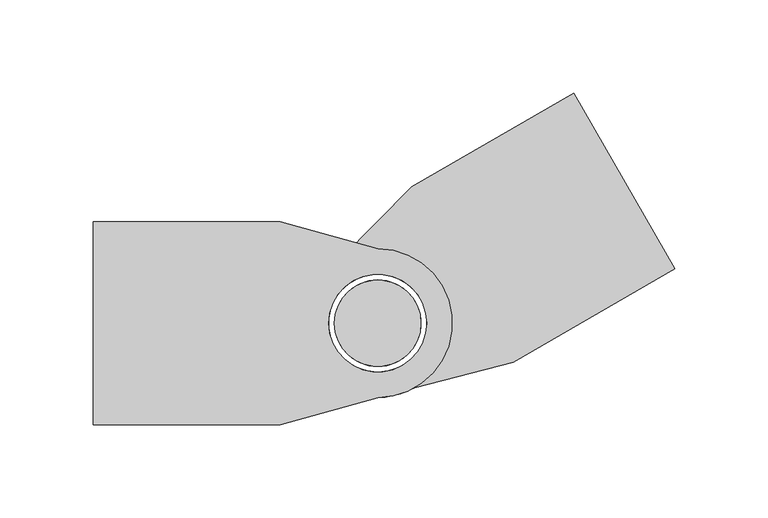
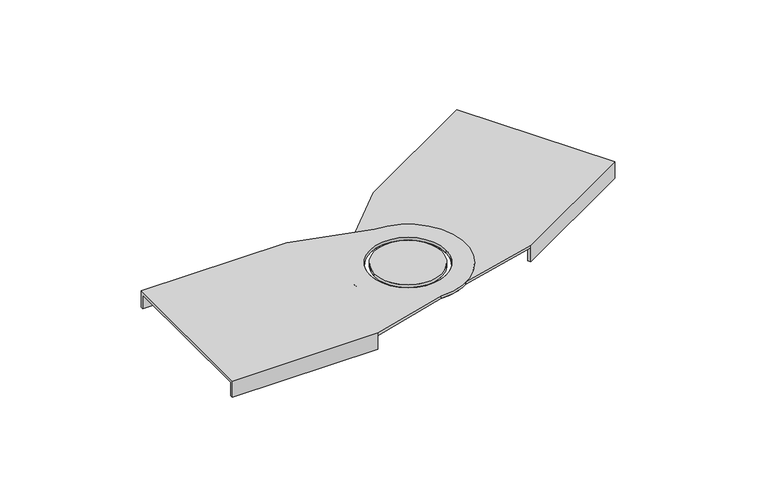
"""IFC4 building model written with IfcOpenShell, lengths in millimetres: cable carrier fitting geometry, BAKS_LD_BEND_Articulated connector_LGC : LGC_H100."""

import ifcopenshell
import ifcopenshell.guid

model = None  # the IFC model being written
_history = None  # IfcOwnerHistory: only IFC2X3 demands one
_inside = {}  # id of a spatial element -> (the spatial element, [elements in it])
_under = {}  # id of a project, library or spatial element -> (it, [spatial elements below it])
_declared = {}  # id of a project -> (the project, [libraries it declares])
_typed = {}  # id of a type object -> (the type object, [elements of that type])
_made_of = {}  # id of a material, layer set ... -> (it, [elements and type objects made of it])


def new_model(schema):
    """Start an empty IFC model of exactly this schema.

    Asked for "IFC4X3", IfcOpenShell would pick the latest addendum, in which some entities
    have other attributes; the version numbers below select the first issue.
    IFC2X3 requires an IfcOwnerHistory on every rooted entity: one is made here for all.
    """
    global model, _history
    if schema == "IFC4X3":
        model = ifcopenshell.file(schema_version=(4, 3, 0, 0))
    else:
        model = ifcopenshell.file(schema=schema)
    _inside.clear()
    _under.clear()
    _declared.clear()
    _typed.clear()
    _made_of.clear()
    _history = None
    if model.schema == "IFC2X3":
        org = make("IfcOrganization", Name="unknown")
        user = make(
            "IfcPersonAndOrganization",
            ThePerson=make("IfcPerson", FamilyName="unknown"),
            TheOrganization=org,
        )
        app = make(
            "IfcApplication",
            ApplicationDeveloper=org,
            Version="unknown",
            ApplicationFullName="unknown",
            ApplicationIdentifier="unknown",
        )
        _history = make(
            "IfcOwnerHistory",
            OwningUser=user,
            OwningApplication=app,
            ChangeAction="ADDED",
            CreationDate=0,
        )
    return model


def make(cls, **values):
    """One entity of the class cls with the attributes given. An attribute that is None is left unset."""
    return model.create_entity(
        cls, **{name: value for name, value in values.items() if value is not None}
    )


def rooted(cls, **values):
    """An entity with a GlobalId (a new one), such as an element, a storey or a relation."""
    return make(cls, GlobalId=ifcopenshell.guid.new(), OwnerHistory=_history, **values)


def si_unit(unit_type, name, prefix=None):
    """IfcSIUnit, for example si_unit("LENGTHUNIT", "METRE", prefix="MILLI")."""
    return make("IfcSIUnit", UnitType=unit_type, Prefix=prefix, Name=name)


def assignment(units):
    """IfcUnitAssignment: the units of a project."""
    return None if units is None else make("IfcUnitAssignment", Units=units)


def point(xyz):
    """IfcCartesianPoint."""
    return None if xyz is None else make("IfcCartesianPoint", Coordinates=xyz)


def direction(xyz):
    """IfcDirection."""
    return None if xyz is None else make("IfcDirection", DirectionRatios=xyz)


def frame(location, z_axis=None, x_axis=None):
    """IfcAxis2Placement3D, a coordinate frame: its origin and axes. An axis left out is left unset."""
    return make(
        "IfcAxis2Placement3D",
        Location=point(location),
        Axis=direction(z_axis),
        RefDirection=direction(x_axis),
    )


def origin():
    """The frame at (0, 0, 0) with its axes left unset."""
    return frame((0.0, 0.0, 0.0))


def place(relative_to, where):
    """IfcLocalPlacement: puts the frame where relative to a parent placement (None: the world)."""
    return make(
        "IfcLocalPlacement", PlacementRelTo=relative_to, RelativePlacement=where
    )


def context(
    kind, dimensions, precision=None, world=None, true_north=None, identifier=None
):
    """IfcGeometricRepresentationContext, for example the 3D "Model" context."""
    return make(
        "IfcGeometricRepresentationContext",
        ContextIdentifier=identifier,
        ContextType=kind,
        CoordinateSpaceDimension=dimensions,
        Precision=precision,
        WorldCoordinateSystem=world,
        TrueNorth=true_north,
    )


def project(units=None, contexts=None):
    """IfcProject with its units and contexts."""
    return rooted(
        "IfcProject",
        Name="project",
        RepresentationContexts=contexts,
        UnitsInContext=assignment(units),
    )


def spatial(cls, under=None, at=None, **own):
    """A site, building, storey or space (cls), placed at a placement, below another one or the project."""
    s = rooted(cls, ObjectPlacement=at, **own)
    if under is not None:
        _under.setdefault(under.id(), (under, []))[1].append(s)
    return s


def polyline(points):
    """IfcPolyline through the points."""
    return make("IfcPolyline", Points=[point(p) for p in points])


def circle_curve(where, radius):
    """IfcCircle in the frame where."""
    return make("IfcCircle", Position=where, Radius=radius)


def shape(context_of_items, identifier, shape_type, items):
    """IfcShapeRepresentation: the items that make up one representation, for example the "Body"."""
    return make(
        "IfcShapeRepresentation",
        ContextOfItems=context_of_items,
        RepresentationIdentifier=identifier,
        RepresentationType=shape_type,
        Items=items,
    )


def source(mapping_origin, context_of_items, identifier, shape_type, items):
    """IfcRepresentationMap: a shape defined once, which mapped items show again and again."""
    return make(
        "IfcRepresentationMap",
        MappingOrigin=mapping_origin,
        MappedRepresentation=shape(context_of_items, identifier, shape_type, items),
    )


def transform(
    local_origin,
    x_axis=None,
    y_axis=None,
    z_axis=None,
    scale=None,
    scale2=None,
    scale3=None,
    uniform=True,
):
    """IfcCartesianTransformationOperator3D, or its non-uniform kind. x_axis, y_axis, z_axis: its Axis1, 2, 3."""
    if uniform:
        return make(
            "IfcCartesianTransformationOperator3D",
            Axis1=direction(x_axis),
            Axis2=direction(y_axis),
            LocalOrigin=point(local_origin),
            Scale=scale,
            Axis3=direction(z_axis),
        )
    return make(
        "IfcCartesianTransformationOperator3DnonUniform",
        Axis1=direction(x_axis),
        Axis2=direction(y_axis),
        LocalOrigin=point(local_origin),
        Scale=scale,
        Axis3=direction(z_axis),
        Scale2=scale2,
        Scale3=scale3,
    )


def mapped(mapping_source, mapping_target):
    """IfcMappedItem: shows the shape of a source again, moved by a transform."""
    return make(
        "IfcMappedItem", MappingSource=mapping_source, MappingTarget=mapping_target
    )


def made_of(thing, what):
    """Note that an element or type object is made of a material, layer set ...; save() writes the relation."""
    if what is not None:
        _made_of.setdefault(what.id(), (what, []))[1].append(thing)
    return thing


def element(
    cls,
    number,
    at=None,
    inside=None,
    cuts=None,
    type_object=None,
    material=None,
    context=None,
    identifier="Body",
    shape_type=None,
    held_by="IfcProductDefinitionShape",
    body=None,
    shapes=None,
    **own,
):
    """One element of the class cls, such as IfcWall. Its Tag is "e" and its number.

    at: its placement. inside: the storey or other place that contains it. cuts: it is an
    opening in that element (IfcRelVoidsElement). A single representation is given by context,
    identifier, shape_type and body (its items); several are given by shapes. held_by: the class
    of the entity that holds the representations. save() writes the other relations.
    """
    e = rooted(cls, Tag="e%d" % number, ObjectPlacement=at, **own)
    if body is not None:
        shapes = [shape(context, identifier, shape_type, body)]
    if shapes is not None:
        e.Representation = make(held_by, Representations=shapes)
    if inside is not None:
        _inside.setdefault(inside.id(), (inside, []))[1].append(e)
    if cuts is not None:
        rooted(
            "IfcRelVoidsElement", RelatingBuildingElement=cuts, RelatedOpeningElement=e
        )
    if type_object is not None:
        _typed.setdefault(type_object.id(), (type_object, []))[1].append(e)
    return made_of(e, material)


def aggregate(whole, parts):
    """IfcRelAggregates: a whole, such as a stair, and the parts it consists of."""
    return rooted("IfcRelAggregates", RelatingObject=whole, RelatedObjects=parts)


def save(model, path):
    """Write the relations noted so far, then the file.

    IfcRelAggregates (storeys below a building ...), IfcRelContainedInSpatialStructure (elements
    in a storey), IfcRelDefinesByType, IfcRelAssociatesMaterial and IfcRelDeclares: one each for
    every whole, place, type object, material and project.
    """
    for whole, parts in _under.values():
        aggregate(whole, parts)
    for where, things in _inside.values():
        rooted(
            "IfcRelContainedInSpatialStructure",
            RelatedElements=things,
            RelatingStructure=where,
        )
    for kind, things in _typed.values():
        rooted("IfcRelDefinesByType", RelatedObjects=things, RelatingType=kind)
    for what, things in _made_of.values():
        rooted("IfcRelAssociatesMaterial", RelatedObjects=things, RelatingMaterial=what)
    for by, libraries in _declared.values():
        rooted("IfcRelDeclares", RelatingContext=by, RelatedDefinitions=libraries)
    model.write(path)


def plane_surface(at):
    """IfcPlane: the flat surface through the origin of the frame at, square to its z axis."""
    return make("IfcPlane", Position=at)


def cylinder_surface(at, radius):
    """IfcCylindricalSurface: all points at the distance radius from the z axis of the frame at."""
    return make("IfcCylindricalSurface", Position=at, Radius=radius)


def revolved_surface(curve, axis_point, axis_direction):
    """IfcSurfaceOfRevolution: the curve turned about the line through axis_point along axis_direction."""
    return make(
        "IfcSurfaceOfRevolution",
        SweptCurve=make("IfcArbitraryOpenProfileDef", ProfileType="CURVE", Curve=curve),
        AxisPosition=make("IfcAxis1Placement", Location=point(axis_point), Axis=direction(axis_direction)),
    )


def advanced_brep(points, edges, surfaces, faces):
    """IfcAdvancedBrep: a solid bounded by faces that lie on surfaces and meet in shared edges.

    An edge is (start, end): straight between two places in points (the first is 0);
    or (start, end, curve); or (start, end, curve, False) where it runs against its curve.
    A face is (place in surfaces, loops), or (place, loops, False) where it looks against
    its surface's normal. A loop lists edges by number (the first is 1), with a minus sign
    where the edge is run from its end to its start. The first loop is the outer one.
    """
    corners = [point(p) for p in points]
    vertices = [make("IfcVertexPoint", VertexGeometry=c) for c in corners]
    made = []
    for start, end, *more in edges:
        made.append(
            make(
                "IfcEdgeCurve",
                EdgeStart=vertices[start],
                EdgeEnd=vertices[end],
                EdgeGeometry=more[0] if more else make("IfcPolyline", Points=[corners[start], corners[end]]),
                SameSense=more[1] if len(more) > 1 else True,
            )
        )
    hull = []
    for where, loops, *sense in faces:
        bounds = []
        for j, loop in enumerate(loops):
            ring = [make("IfcOrientedEdge", EdgeElement=made[abs(k) - 1], Orientation=k > 0) for k in loop]
            bounds.append(
                make(
                    "IfcFaceOuterBound" if j == 0 else "IfcFaceBound",
                    Bound=make("IfcEdgeLoop", EdgeList=ring),
                    Orientation=True,
                )
            )
        hull.append(make("IfcAdvancedFace", Bounds=bounds, FaceSurface=surfaces[where], SameSense=sense[0] if sense else True))
    return make("IfcAdvancedBrep", Outer=make("IfcClosedShell", CfsFaces=hull))


def cable_carrier_fitting_4de00f68(model_context):
    return source(origin(), model_context, "Body", "AdvancedBrep", [
        advanced_brep(
        [(-153.0, 54.5, 2.0), (-153.0, -54.5, 2.0), (-52.5, -54.5, 2.0), (0.0, -40.0, 2.0), (0.0, 40.0, 2.0), (-52.5, 54.5, 2.0), (26.25, 0.0, 2.0), (-26.25, 0.0, 2.0), (-52.5, -54.5, 0.0), (-52.5, -52.5, 0.0), (-153.0, -52.5, 0.0), (-153.0, 52.5, 0.0), (-52.5, 52.5, 0.0), (-52.5, 54.5, 0.0), (0.0, 40.0, 0.0), (0.0, -40.0, 0.0), (-26.25, 0.0, 0.0), (26.25, 0.0, 0.0), (-52.5, 54.5, -10.0), (-153.0, 54.5, -10.0), (-153.0, -54.5, -10.0), (-52.5, -54.5, -10.0), (-153.0, 52.5, -10.0), (-153.0, -52.5, -10.0), (-52.5, -52.5, -10.0), (-52.5, 52.5, -10.0)],
        [
            (0, 1),
            (1, 2),
            (2, 3),
            (3, 4, circle_curve(frame((0.0, 0.0, 2.0), z_axis=(0.0, 0.0, 1.0), x_axis=(-1.0, 0.0, 0.0)), 40.0)),
            (4, 5),
            (5, 0),
            (6, 7, circle_curve(frame((0.0, 0.0, 2.0), z_axis=(0.0, 0.0, -1.0), x_axis=(-1.0, 0.0, 0.0)), 26.25)),
            (7, 6, circle_curve(frame((0.0, 0.0, 2.0), z_axis=(0.0, 0.0, -1.0), x_axis=(-1.0, 0.0, 0.0)), 26.25)),
            (8, 9),
            (9, 10),
            (10, 11),
            (11, 12),
            (12, 13),
            (13, 14),
            (14, 15, circle_curve(frame((0.0, 0.0, 0.0), z_axis=(0.0, 0.0, -1.0), x_axis=(-1.0, 0.0, 0.0)), 40.0)),
            (15, 8),
            (16, 17, circle_curve(frame((0.0, 0.0, 0.0), z_axis=(0.0, 0.0, 1.0), x_axis=(-1.0, 0.0, 0.0)), 26.25)),
            (17, 16, circle_curve(frame((0.0, 0.0, 0.0), z_axis=(0.0, 0.0, 1.0), x_axis=(-1.0, 0.0, 0.0)), 26.25)),
            (5, 13),
            (13, 18),
            (18, 19),
            (19, 0),
            (1, 20),
            (20, 21),
            (21, 8),
            (8, 2),
            (19, 22),
            (22, 11),
            (10, 23),
            (23, 20),
            (7, 16),
            (17, 6),
            (4, 14),
            (3, 15),
            (23, 24),
            (24, 21),
            (9, 24),
            (18, 25),
            (25, 22),
            (12, 25),
        ],
        [
            plane_surface(frame((-52.5, 54.5, 2.0), z_axis=(0.0, 0.0, 1.0), x_axis=(1.0, 0.0, 0.0))),
            plane_surface(frame((-52.5, 54.5, 0.0), z_axis=(0.0, 0.0, -1.0), x_axis=(-1.0, 0.0, 0.0))),
            plane_surface(frame((-153.0, 54.5, 2.0), z_axis=(0.0, 1.0, 0.0), x_axis=(0.0, 0.0, -1.0))),
            plane_surface(frame((-52.5, -54.5, 2.0), z_axis=(0.0, -1.0, 0.0), x_axis=(0.0, 0.0, -1.0))),
            plane_surface(frame((-153.0, -54.5, 2.0), z_axis=(-1.0, 0.0, 0.0), x_axis=(0.0, 0.0, -1.0))),
            revolved_surface(polyline([(-26.25, 0.0, 2.0), (-26.25, 0.0, 0.0)]), (0.0, 0.0, 0.0), (0.0, 0.0, 1.0)),
            plane_surface(frame((-52.5, 54.5, 2.0), z_axis=(0.266223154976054, 0.9639114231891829, 0.0), x_axis=(0.0, 0.0, -1.0))),
            cylinder_surface(frame((0.0, 0.0, 0.0), z_axis=(0.0, 0.0, 1.0), x_axis=(-1.0, 0.0, 0.0)), 40.0),
            plane_surface(frame((0.0, -40.0, 2.0), z_axis=(0.26622315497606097, -0.963911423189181, 0.0), x_axis=(0.0, 0.0, -1.0))),
            plane_surface(frame((-52.5, -52.5, -10.0), z_axis=(0.0, 0.0, -1.0), x_axis=(-1.0, 0.0, 0.0))),
            plane_surface(frame((-153.0, -52.5, 0.0), z_axis=(0.0, 1.0, 0.0), x_axis=(0.0, 0.0, -1.0))),
            plane_surface(frame((-52.5, -52.5, 0.0), z_axis=(1.0, 0.0, 0.0), x_axis=(0.0, 0.0, -1.0))),
            plane_surface(frame((-52.5, 54.5, -10.0), z_axis=(0.0, 0.0, -1.0), x_axis=(-1.0, 0.0, 0.0))),
            plane_surface(frame((-52.5, 54.5, 0.0), z_axis=(1.0, 0.0, 0.0), x_axis=(0.0, 0.0, -1.0))),
            plane_surface(frame((-52.5, 52.5, 0.0), z_axis=(0.0, -1.0, 0.0), x_axis=(0.0, 0.0, -1.0))),
        ],
        [
            (0, [[1, 2, 3, 4, 5, 6], [7, 8]]),
            (1, [[9, 10, 11, 12, 13, 14, 15, 16], [17, 18]]),
            (2, [[19, 20, 21, 22, -6]]),
            (3, [[23, 24, 25, 26, -2]]),
            (4, [[27, 28, -11, 29, 30, -23, -1, -22]]),
            (5, [[-8, 31, -18, 32]]),
            (5, [[-17, -31, -7, -32]]),
            (6, [[33, -14, -19, -5]]),
            (7, [[34, -15, -33, -4]]),
            (8, [[-26, -16, -34, -3]]),
            (9, [[35, 36, -24, -30]]),
            (10, [[-29, -10, 37, -35]]),
            (11, [[-37, -9, -25, -36]]),
            (12, [[-21, 38, 39, -27]]),
            (13, [[-20, -13, 40, -38]]),
            (14, [[-40, -12, -28, -39]]),
        ],
    ),
        advanced_brep(
        [(23.25, 0.0, 2.0), (-23.25, 0.0, 2.0), (-23.25, 0.0, 0.0), (23.25, 0.0, 0.0)],
        [
            (0, 1, circle_curve(frame((0.0, 0.0, 2.0), z_axis=(0.0, 0.0, 1.0), x_axis=(-1.0, 0.0, 0.0)), 23.25)),
            (1, 0, circle_curve(frame((0.0, 0.0, 2.0), z_axis=(0.0, 0.0, 1.0), x_axis=(-1.0, 0.0, 0.0)), 23.25)),
            (2, 3, circle_curve(frame((0.0, 0.0, 0.0), z_axis=(0.0, 0.0, -1.0), x_axis=(-1.0, 0.0, 0.0)), 23.25)),
            (3, 2, circle_curve(frame((0.0, 0.0, 0.0), z_axis=(0.0, 0.0, -1.0), x_axis=(-1.0, 0.0, 0.0)), 23.25)),
            (1, 2),
            (3, 0),
        ],
        [
            plane_surface(frame((-52.5, 54.5, 2.0), z_axis=(0.0, 0.0, 1.0), x_axis=(1.0, 0.0, 0.0))),
            plane_surface(frame((-52.5, 54.5, 0.0), z_axis=(0.0, 0.0, -1.0), x_axis=(-1.0, 0.0, 0.0))),
            cylinder_surface(frame((0.0, 0.0, 0.0), z_axis=(0.0, 0.0, -1.0), x_axis=(-1.0, 0.0, 0.0)), 23.25),
        ],
        [
            (0, [[1, 2]]),
            (1, [[3, 4]]),
            (2, [[-2, 5, -4, 6]]),
            (2, [[-3, -5, -1, -6]]),
        ],
    ),
        advanced_brep(
        [(105.2518868, 123.6983845, 2.0), (18.2163337, 73.4483845, 2.0), (-20.0, 34.6410162, 2.0), (20.0, -34.6410162, 2.0), (72.7163337, -20.9483845, 2.0), (159.7518868, 29.3016155, 2.0), (-22.7331668, -13.125, 2.0), (22.7331668, 13.125, 2.0), (72.7163337, -20.9483845, 0.0), (20.0, -34.6410162, 0.0), (-20.0, 34.6410162, 0.0), (18.2163337, 73.4483845, 0.0), (19.2163337, 71.7163337, 0.0), (106.2518868, 121.9663337, 0.0), (158.7518868, 31.0336663, 0.0), (71.7163337, -19.2163337, 0.0), (22.7331668, 13.125, 0.0), (-22.7331668, -13.125, 0.0), (105.2518868, 123.6983845, -10.0), (18.2163337, 73.4483845, -10.0), (72.7163337, -20.9483845, -10.0), (159.7518868, 29.3016155, -10.0), (158.7518868, 31.0336663, -10.0), (106.2518868, 121.9663337, -10.0), (71.7163337, -19.2163337, -10.0), (19.2163337, 71.7163337, -10.0)],
        [
            (0, 1),
            (1, 2),
            (2, 3, circle_curve(frame((0.0, 0.0, 2.0), z_axis=(0.0, 0.0, 1.0), x_axis=(0.8660254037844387, 0.5, 0.0)), 40.0)),
            (3, 4),
            (4, 5),
            (5, 0),
            (6, 7, circle_curve(frame((0.0, 0.0, 2.0), z_axis=(0.0, 0.0, -1.0), x_axis=(0.8660254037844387, 0.5, 0.0)), 26.25)),
            (7, 6, circle_curve(frame((0.0, 0.0, 2.0), z_axis=(0.0, 0.0, -1.0), x_axis=(0.8660254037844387, 0.5, 0.0)), 26.25)),
            (8, 9),
            (9, 10, circle_curve(frame((0.0, 0.0, 0.0), z_axis=(0.0, 0.0, -1.0), x_axis=(0.8660254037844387, 0.5, 0.0)), 40.0)),
            (10, 11),
            (11, 12),
            (12, 13),
            (13, 14),
            (14, 15),
            (15, 8),
            (16, 17, circle_curve(frame((0.0, 0.0, 0.0), z_axis=(0.0, 0.0, 1.0), x_axis=(0.8660254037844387, 0.5, 0.0)), 26.25)),
            (17, 16, circle_curve(frame((0.0, 0.0, 0.0), z_axis=(0.0, 0.0, 1.0), x_axis=(0.8660254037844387, 0.5, 0.0)), 26.25)),
            (0, 18),
            (18, 19),
            (19, 11),
            (11, 1),
            (4, 8),
            (8, 20),
            (20, 21),
            (21, 5),
            (21, 22),
            (22, 14),
            (13, 23),
            (23, 18),
            (6, 17),
            (16, 7),
            (10, 2),
            (9, 3),
            (20, 24),
            (24, 22),
            (24, 15),
            (23, 25),
            (25, 19),
            (25, 12),
        ],
        [
            plane_surface(frame((18.2163337, 73.4483845, 2.0), z_axis=(0.0, 0.0, 1.0), x_axis=(-0.8660254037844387, -0.5, 0.0))),
            plane_surface(frame((18.2163337, 73.4483845, 0.0), z_axis=(0.0, 0.0, -1.0), x_axis=(0.8660254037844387, 0.5, 0.0))),
            plane_surface(frame((105.2518868, 123.6983845, 2.0), z_axis=(-0.5, 0.8660254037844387, 0.0), x_axis=(0.0, 0.0, -1.0))),
            plane_surface(frame((72.7163337, -20.9483845, 2.0), z_axis=(0.5000000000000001, -0.8660254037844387, 0.0), x_axis=(0.0, 0.0, -1.0))),
            plane_surface(frame((159.7518868, 29.3016155, 2.0), z_axis=(0.8660254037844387, 0.5, 0.0), x_axis=(0.0, 0.0, -1.0))),
            revolved_surface(polyline([(22.733166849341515, 13.125, 2.0), (22.733166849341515, 13.125, 0.0)]), (0.0, 0.0, 0.0), (0.0, 0.0, 1.0)),
            plane_surface(frame((18.2163337, 73.4483845, 2.0), z_axis=(-0.712511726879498, 0.7016602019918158, 0.0), x_axis=(0.0, 0.0, -1.0))),
            cylinder_surface(frame((0.0, 0.0, 0.0), z_axis=(0.0, 0.0, 1.0), x_axis=(0.8660254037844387, 0.5, 0.0)), 40.0),
            plane_surface(frame((20.0, -34.6410162, 2.0), z_axis=(0.2513996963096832, -0.9678833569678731, 0.0), x_axis=(0.0, 0.0, -1.0))),
            plane_surface(frame((71.7163337, -19.2163337, -10.0), z_axis=(0.0, 0.0, -1.0), x_axis=(0.8660254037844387, 0.5, 0.0))),
            plane_surface(frame((158.7518868, 31.0336663, 0.0), z_axis=(-0.5, 0.8660254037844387, 0.0), x_axis=(0.0, 0.0, -1.0))),
            plane_surface(frame((71.7163337, -19.2163337, 0.0), z_axis=(-0.8660254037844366, -0.5000000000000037, 0.0), x_axis=(0.0, 0.0, -1.0))),
            plane_surface(frame((18.2163337, 73.4483845, -10.0), z_axis=(0.0, 0.0, -1.0), x_axis=(0.8660254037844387, 0.5, 0.0))),
            plane_surface(frame((18.2163337, 73.4483845, 0.0), z_axis=(-0.8660254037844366, -0.5000000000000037, 0.0), x_axis=(0.0, 0.0, -1.0))),
            plane_surface(frame((19.2163337, 71.7163337, 0.0), z_axis=(0.5, -0.8660254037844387, 0.0), x_axis=(0.0, 0.0, -1.0))),
        ],
        [
            (0, [[1, 2, 3, 4, 5, 6], [7, 8]]),
            (1, [[9, 10, 11, 12, 13, 14, 15, 16], [17, 18]]),
            (2, [[-1, 19, 20, 21, 22]]),
            (3, [[-5, 23, 24, 25, 26]]),
            (4, [[-19, -6, -26, 27, 28, -14, 29, 30]]),
            (5, [[31, -17, 32, -7]]),
            (5, [[-31, -8, -32, -18]]),
            (6, [[-2, -22, -11, 33]]),
            (7, [[-3, -33, -10, 34]]),
            (8, [[-4, -34, -9, -23]]),
            (9, [[-27, -25, 35, 36]]),
            (10, [[-36, 37, -15, -28]]),
            (11, [[-35, -24, -16, -37]]),
            (12, [[-30, 38, 39, -20]]),
            (13, [[-39, 40, -12, -21]]),
            (14, [[-38, -29, -13, -40]]),
        ],
    ),
        advanced_brep(
        [(-20.1350906, -11.625, 2.0), (20.1350906, 11.625, 2.0), (20.1350906, 11.625, 0.0), (-20.1350906, -11.625, 0.0)],
        [
            (0, 1, circle_curve(frame((0.0, 0.0, 2.0), z_axis=(0.0, 0.0, 1.0), x_axis=(0.8660254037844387, 0.5, 0.0)), 23.25)),
            (1, 0, circle_curve(frame((0.0, 0.0, 2.0), z_axis=(0.0, 0.0, 1.0), x_axis=(0.8660254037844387, 0.5, 0.0)), 23.25)),
            (2, 3, circle_curve(frame((0.0, 0.0, 0.0), z_axis=(0.0, 0.0, -1.0), x_axis=(0.8660254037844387, 0.5, 0.0)), 23.25)),
            (3, 2, circle_curve(frame((0.0, 0.0, 0.0), z_axis=(0.0, 0.0, -1.0), x_axis=(0.8660254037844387, 0.5, 0.0)), 23.25)),
            (0, 3),
            (2, 1),
        ],
        [
            plane_surface(frame((18.2163337, 73.4483845, 2.0), z_axis=(0.0, 0.0, 1.0), x_axis=(-0.8660254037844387, -0.5, 0.0))),
            plane_surface(frame((18.2163337, 73.4483845, 0.0), z_axis=(0.0, 0.0, -1.0), x_axis=(0.8660254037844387, 0.5, 0.0))),
            cylinder_surface(frame((0.0, 0.0, 0.0), z_axis=(0.0, 0.0, -1.0), x_axis=(0.8660254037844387, 0.5, 0.0)), 23.25),
        ],
        [
            (0, [[1, 2]]),
            (1, [[3, 4]]),
            (2, [[5, -3, 6, -1]]),
            (2, [[-5, -2, -6, -4]]),
        ],
    ),
    ])


if __name__ == "__main__":
    model = new_model("IFC4")
    model_context = context("Model", 3, world=origin())
    ifc_project = project(units=[si_unit("LENGTHUNIT", "METRE", prefix="MILLI")], contexts=[model_context])
    site = spatial("IfcSite", under=ifc_project)
    building = spatial("IfcBuilding", under=site)
    placement = place(None, origin())
    cable_carrier_fitting_shape = cable_carrier_fitting_4de00f68(model_context)
    element("IfcCableCarrierFitting", 1, ObjectType="BAKS_LD_BEND_Articulated connector_LGC : LGC_H100", at=placement, inside=building, context=model_context, shape_type="MappedRepresentation", body=[
        mapped(cable_carrier_fitting_shape, transform((0.0, 0.0, 0.0), x_axis=(1.0, 0.0, 0.0), y_axis=(0.0, 1.0, 0.0), z_axis=(0.0, 0.0, 1.0))),
    ])
    save(model, "model.ifc")
